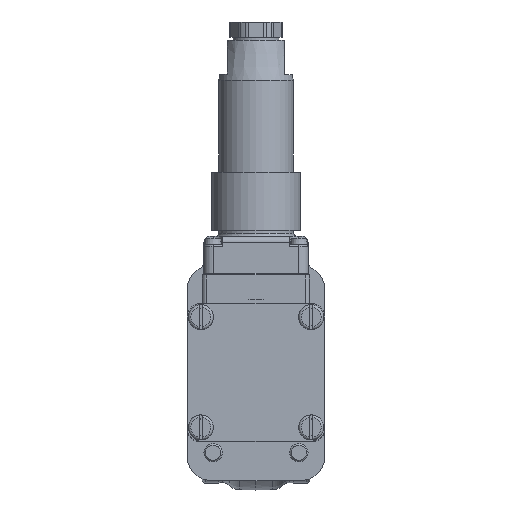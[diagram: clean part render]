
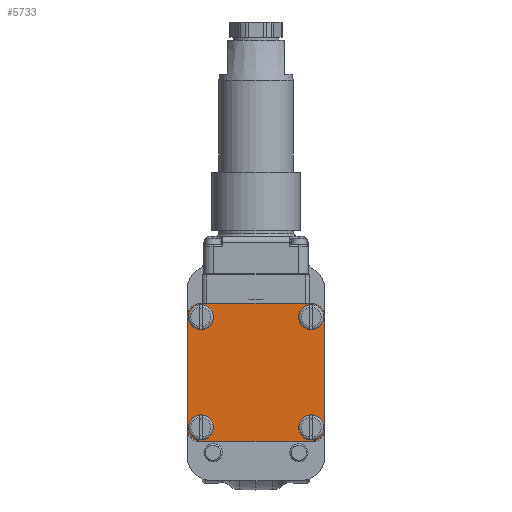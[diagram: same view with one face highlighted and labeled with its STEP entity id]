
A CAD part, top view. The second image highlights one B-rep face of the part: STEP entity #5733.
In plain terms, the highlighted planar face has unit normal (0, 0, 1) as drawn and (-1, 0, 0) by its records, which use the part's own axes.
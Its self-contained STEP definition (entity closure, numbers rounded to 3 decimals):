
#5733=ADVANCED_FACE('',(#10377,#10378,#10379,#10380,#10381),#6615,.T.);
#6615=PLANE('',#24562);
#7829=LINE('',#36312,#9336);
#7830=LINE('',#36317,#9337);
#7831=LINE('',#36321,#9338);
#7832=LINE('',#36325,#9339);
#9336=VECTOR('',#28355,1.);
#9337=VECTOR('',#28358,1.);
#9338=VECTOR('',#28361,1.);
#9339=VECTOR('',#28364,1.);
#10377=FACE_BOUND('',#11597,.T.);
#10378=FACE_BOUND('',#11598,.T.);
#10379=FACE_BOUND('',#11599,.T.);
#10380=FACE_BOUND('',#11600,.T.);
#10381=FACE_BOUND('',#11601,.T.);
#11597=EDGE_LOOP('',(#15450));
#11598=EDGE_LOOP('',(#15451));
#11599=EDGE_LOOP('',(#15452,#15453,#15454,#15455,#15456,#15457,#15458,#15459));
#11600=EDGE_LOOP('',(#15460));
#11601=EDGE_LOOP('',(#15461));
#15450=ORIENTED_EDGE('',*,*,#21547,.T.);
#15451=ORIENTED_EDGE('',*,*,#21548,.T.);
#15452=ORIENTED_EDGE('',*,*,#21549,.T.);
#15453=ORIENTED_EDGE('',*,*,#21550,.T.);
#15454=ORIENTED_EDGE('',*,*,#21551,.T.);
#15455=ORIENTED_EDGE('',*,*,#21552,.T.);
#15456=ORIENTED_EDGE('',*,*,#21553,.T.);
#15457=ORIENTED_EDGE('',*,*,#21554,.T.);
#15458=ORIENTED_EDGE('',*,*,#21555,.T.);
#15459=ORIENTED_EDGE('',*,*,#21556,.T.);
#15460=ORIENTED_EDGE('',*,*,#21557,.T.);
#15461=ORIENTED_EDGE('',*,*,#21558,.T.);
#19052=VERTEX_POINT('',#36309);
#19053=VERTEX_POINT('',#36311);
#19054=VERTEX_POINT('',#36313);
#19055=VERTEX_POINT('',#36314);
#19056=VERTEX_POINT('',#36316);
#19057=VERTEX_POINT('',#36318);
#19058=VERTEX_POINT('',#36320);
#19059=VERTEX_POINT('',#36322);
#19060=VERTEX_POINT('',#36324);
#19061=VERTEX_POINT('',#36326);
#19062=VERTEX_POINT('',#36329);
#19063=VERTEX_POINT('',#36331);
#21547=EDGE_CURVE('',#19052,#19052,#23227,.T.);
#21548=EDGE_CURVE('',#19053,#19053,#23228,.T.);
#21549=EDGE_CURVE('',#19054,#19055,#7829,.T.);
#21550=EDGE_CURVE('',#19055,#19056,#23229,.T.);
#21551=EDGE_CURVE('',#19056,#19057,#7830,.T.);
#21552=EDGE_CURVE('',#19057,#19058,#23230,.T.);
#21553=EDGE_CURVE('',#19058,#19059,#7831,.T.);
#21554=EDGE_CURVE('',#19059,#19060,#23231,.T.);
#21555=EDGE_CURVE('',#19060,#19061,#7832,.T.);
#21556=EDGE_CURVE('',#19061,#19054,#23232,.T.);
#21557=EDGE_CURVE('',#19062,#19062,#23233,.T.);
#21558=EDGE_CURVE('',#19063,#19063,#23234,.T.);
#23227=CIRCLE('',#24554,2.8);
#23228=CIRCLE('',#24555,2.8);
#23229=CIRCLE('',#24556,4.5);
#23230=CIRCLE('',#24557,4.5);
#23231=CIRCLE('',#24558,4.5);
#23232=CIRCLE('',#24559,4.5);
#23233=CIRCLE('',#24560,2.8);
#23234=CIRCLE('',#24561,2.8);
#24554=AXIS2_PLACEMENT_3D('',#36308,#28351,#28352);
#24555=AXIS2_PLACEMENT_3D('',#36310,#28353,#28354);
#24556=AXIS2_PLACEMENT_3D('',#36315,#28356,#28357);
#24557=AXIS2_PLACEMENT_3D('',#36319,#28359,#28360);
#24558=AXIS2_PLACEMENT_3D('',#36323,#28362,#28363);
#24559=AXIS2_PLACEMENT_3D('',#36327,#28365,#28366);
#24560=AXIS2_PLACEMENT_3D('',#36328,#28367,#28368);
#24561=AXIS2_PLACEMENT_3D('',#36330,#28369,#28370);
#24562=AXIS2_PLACEMENT_3D('',#36332,#28371,#28372);
#28351=DIRECTION('',(1.,0.,0.));
#28352=DIRECTION('',(0.,0.,1.));
#28353=DIRECTION('',(1.,0.,0.));
#28354=DIRECTION('',(0.,0.,1.));
#28355=DIRECTION('',(0.,1.,0.));
#28356=DIRECTION('',(-1.,0.,0.));
#28357=DIRECTION('',(0.,0.,1.));
#28358=DIRECTION('',(0.,0.,-1.));
#28359=DIRECTION('',(-1.,0.,0.));
#28360=DIRECTION('',(0.,1.,0.));
#28361=DIRECTION('',(0.,-1.,0.));
#28362=DIRECTION('',(-1.,0.,0.));
#28363=DIRECTION('',(0.,0.,-1.));
#28364=DIRECTION('',(0.,0.,1.));
#28365=DIRECTION('',(-1.,0.,0.));
#28366=DIRECTION('',(0.,0.,1.));
#28367=DIRECTION('',(1.,0.,0.));
#28368=DIRECTION('',(0.,0.,1.));
#28369=DIRECTION('',(1.,0.,0.));
#28370=DIRECTION('',(0.,0.,1.));
#28371=DIRECTION('',(-1.,0.,0.));
#28372=DIRECTION('',(0.,0.,1.));
#36308=CARTESIAN_POINT('',(0.,4.5,4.5));
#36309=CARTESIAN_POINT('',(0.,4.5,7.3));
#36310=CARTESIAN_POINT('',(0.,40.5,40.5));
#36311=CARTESIAN_POINT('',(0.,40.5,43.3));
#36312=CARTESIAN_POINT('',(0.,4.5,45.));
#36313=CARTESIAN_POINT('',(0.,4.5,45.));
#36314=CARTESIAN_POINT('',(0.,40.5,45.));
#36315=CARTESIAN_POINT('',(0.,40.5,40.5));
#36316=CARTESIAN_POINT('',(0.,45.,40.5));
#36317=CARTESIAN_POINT('',(0.,45.,40.5));
#36318=CARTESIAN_POINT('',(0.,45.,4.5));
#36319=CARTESIAN_POINT('',(0.,40.5,4.5));
#36320=CARTESIAN_POINT('',(0.,40.5,0.));
#36321=CARTESIAN_POINT('',(0.,40.5,0.));
#36322=CARTESIAN_POINT('',(0.,4.5,0.));
#36323=CARTESIAN_POINT('',(0.,4.5,4.5));
#36324=CARTESIAN_POINT('',(0.,0.,4.5));
#36325=CARTESIAN_POINT('',(0.,0.,4.5));
#36326=CARTESIAN_POINT('',(0.,0.,40.5));
#36327=CARTESIAN_POINT('',(0.,4.5,40.5));
#36328=CARTESIAN_POINT('',(0.,40.5,4.5));
#36329=CARTESIAN_POINT('',(0.,40.5,7.3));
#36330=CARTESIAN_POINT('',(0.,4.5,40.5));
#36331=CARTESIAN_POINT('',(0.,4.5,43.3));
#36332=CARTESIAN_POINT('',(0.,40.5,40.5));
